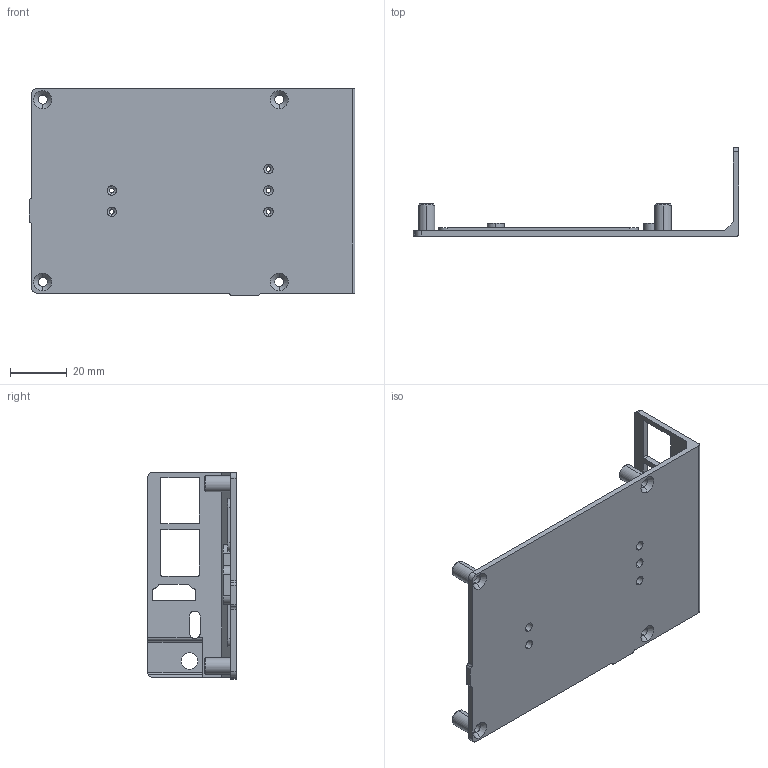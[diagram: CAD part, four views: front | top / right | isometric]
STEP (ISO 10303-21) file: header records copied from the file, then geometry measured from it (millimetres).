
FILE_DESCRIPTION (( 'STEP AP214' ), '1' );
FILE_NAME ('LubanCat 2 菁裔.STEP', '2023-03-11T08:39:03', ( '' ), ( '' ), 'SwSTEP 2.0', 'SolidWorks 2021', '' );
FILE_SCHEMA (( 'AUTOMOTIVE_DESIGN' ));
Length unit declared in the file: millimetre
Products named in the file (1): LubanCat 2 菁裔
Bounding box: 114.4 x 31.05 x 72.6 mm (x, y, z)
Volume: 22615.9 mm3; surface area: 22135.6 mm2
Topology: 1 solids, 1 shells, 173 faces, 458 edges, 294 vertices
Faces by surface type: cylinder 82, plane 59, cone 32
Entity records: 5631 total; most frequent: DIRECTION 990, CARTESIAN_POINT 974, ORIENTED_EDGE 916, EDGE_CURVE 458, AXIS2_PLACEMENT_3D 370, VERTEX_POINT 294, LINE 250, VECTOR 250
